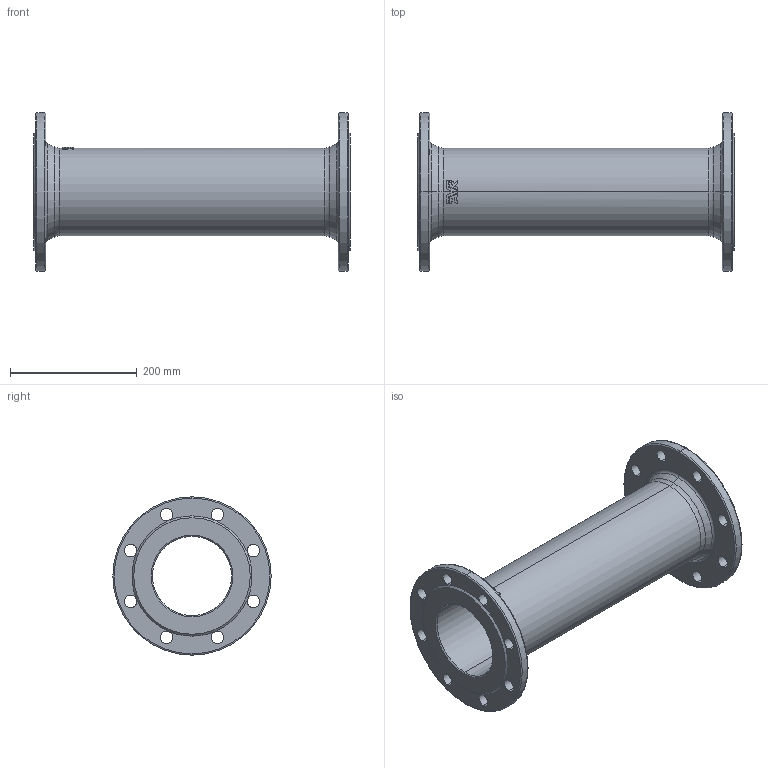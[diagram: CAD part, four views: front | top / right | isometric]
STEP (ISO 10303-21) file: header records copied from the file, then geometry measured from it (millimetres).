
FILE_DESCRIPTION (( 'STEP AP203' ), '1' );
FILE_NAME ('O_712_4810_DN125_1X_REV01.step', '2021-12-01T10:26:04', ( '' ), ( '' ), 'SwSTEP 2.0', 'SolidWorks 2019', '' );
FILE_SCHEMA (( 'CONFIG_CONTROL_DESIGN' ));
Length unit declared in the file: millimetre
Products named in the file (1): O_712_4810_DN125_1X_REV01
Bounding box: 500 x 250 x 250 mm (x, y, z)
Volume: 2591480.6 mm3; surface area: 563284.4 mm2
Topology: 1 solids, 1 shells, 116 faces, 327 edges, 204 vertices
Faces by surface type: cylinder 45, plane 26, bspline 17, torus 16, cone 12
Entity records: 4662 total; most frequent: CARTESIAN_POINT 1475, DIRECTION 687, ORIENTED_EDGE 654, EDGE_CURVE 327, AXIS2_PLACEMENT_3D 294, VERTEX_POINT 204, CIRCLE 194, EDGE_LOOP 141
